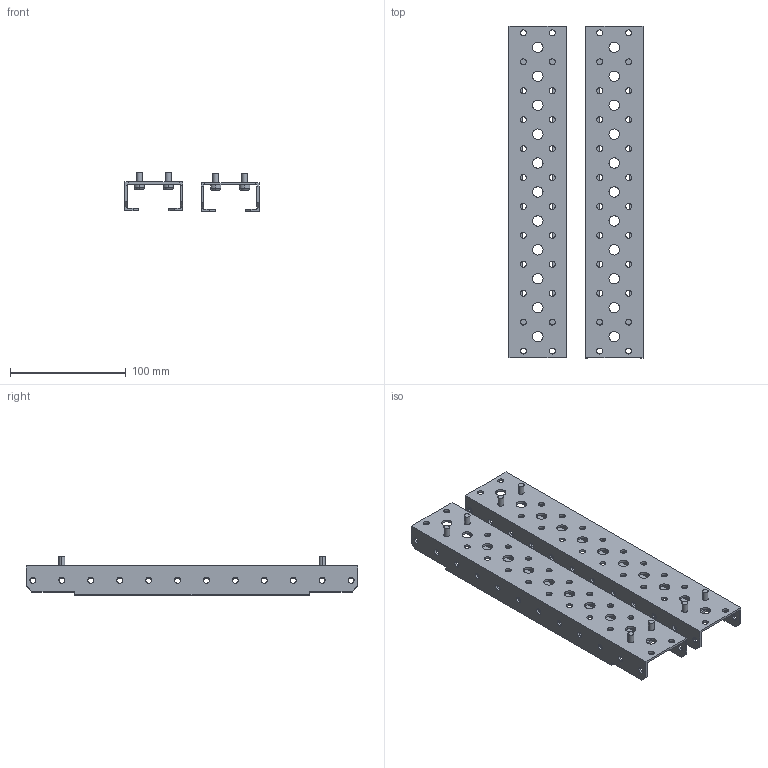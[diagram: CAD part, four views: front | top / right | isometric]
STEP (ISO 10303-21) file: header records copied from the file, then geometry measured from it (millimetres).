
FILE_DESCRIPTION (( 'STEP AP214' ), '1' );
FILE_NAME ('FO-00-PRM-040 Ïðîôèëü ìîíòàæíûé 50?25 â øêàô 400 ìì (2 øò.óïàê.).STEP', '2025-08-04T08:53:16', ( '' ), ( '' ), 'SwSTEP 2.0', 'SolidWorks 2023', '' );
FILE_SCHEMA (( 'AUTOMOTIVE_DESIGN' ));
Length unit declared in the file: millimetre
Products named in the file (3): Метизы M2.5 50×25; Профиль монтажный 50×25 в шкаф 400 мм; FO-00-PRM-040 Профиль монтажный 50×25 в шкаф 400 мм (2 шт.упак.)
Assembly tree (6 placements, depth 2):
  FO-00-PRM-040 Профиль монтажный 50×25 в шкаф 400 мм (2 шт.упак.)
    Профиль монтажный 50×25 в шкаф 400 мм  x2
    Метизы M2.5 50×25  x4
Bounding box: 116 x 287 x 33.71 mm (x, y, z)
Volume: 120908.1 mm3; surface area: 127957.3 mm2
Topology: 10 solids, 10 shells, 440 faces, 1204 edges, 800 vertices
Faces by surface type: cylinder 268, plane 156, torus 16
Entity records: 6587 total; most frequent: DIRECTION 1188, CARTESIAN_POINT 1083, ORIENTED_EDGE 1064, EDGE_CURVE 532, AXIS2_PLACEMENT_3D 459, VERTEX_POINT 354, EDGE_LOOP 310, VECTOR 270
